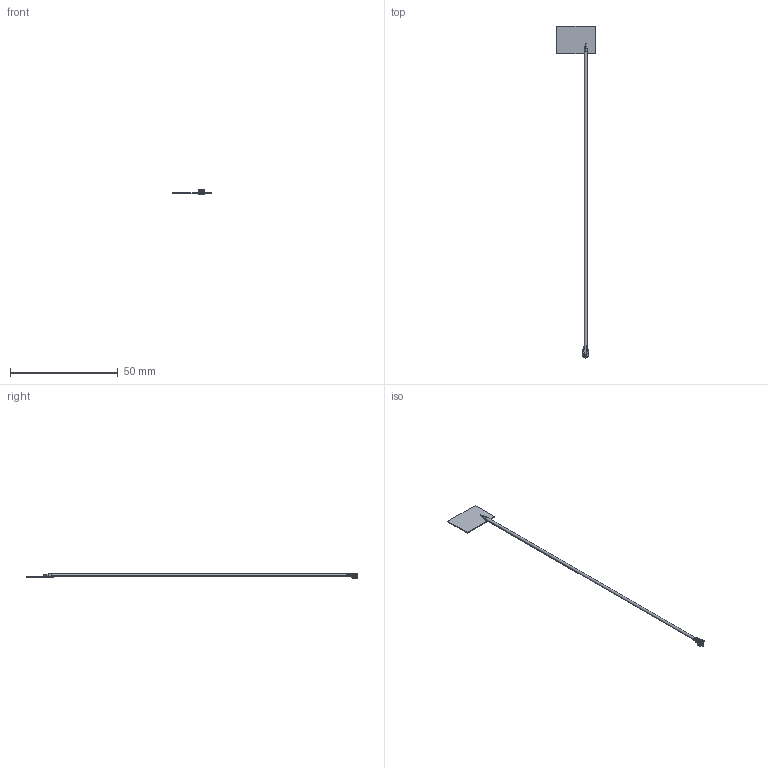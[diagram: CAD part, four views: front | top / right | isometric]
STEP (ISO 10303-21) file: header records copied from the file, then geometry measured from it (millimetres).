
FILE_DESCRIPTION((''),'2;1');
FILE_NAME('1004369PT-AA80L0140_ME_FIT_ASM','2019-10-10T',('jarvayo'),(''),'CREO PARAMETRIC BY PTC INC, 2016130','CREO PARAMETRIC BY PTC INC, 2016130','');
FILE_SCHEMA(('AP203_CONFIGURATION_CONTROLLED_3D_DESIGN_OF_MECHANICAL_PARTS_AND_ASSEMBLIES_MIM_LF { 1 0 10303 403 2 1 2 }'));
Length unit declared in the file: millimetre
Products named in the file (5): 1004369PT_ME-FIT; 1003163-AA80L0145_ME_FIT; 1001422; 1003163-AA80L0145_ME_FIT_ASM; 1004369PT-AA80L0140_ME_FIT_ASM
Assembly tree (4 placements, depth 3):
  1004369PT-AA80L0140_ME_FIT_ASM
    1004369PT_ME-FIT
    1003163-AA80L0145_ME_FIT_ASM
      1003163-AA80L0145_ME_FIT
      1001422
Bounding box: 18 x 154.26 x 2.05 mm (x, y, z)
Volume: 311.6 mm3; surface area: 1199.4 mm2
Topology: 4 solids, 6 shells, 717 faces, 2607 edges, 1907 vertices
Faces by surface type: plane 414, cylinder 144, bspline 57, cone 46, extrusion 33, torus 21, sphere 2
Entity records: 39176 total; most frequent: CARTESIAN_POINT 10837, DIRECTION 3933, ORIENTED_EDGE 3742, EDGE_CURVE 1871, VECTOR 1818, LINE 1785, PRESENTATION_STYLE_ASSIGNMENT 1491, STYLED_ITEM 1480
